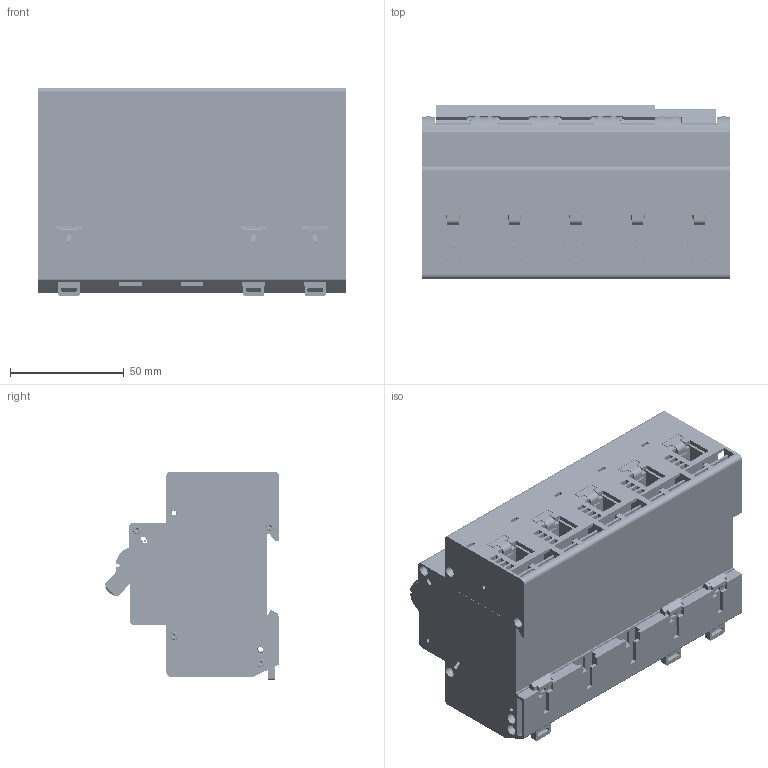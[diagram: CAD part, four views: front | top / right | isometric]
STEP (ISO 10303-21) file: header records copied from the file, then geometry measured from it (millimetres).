
FILE_DESCRIPTION (( 'STEP AP214' ), '1' );
FILE_NAME ('OptiDin BM125 4X-ÍÐ230.STEP', '2023-04-17T13:53:43', ( '' ), ( '' ), 'SwSTEP 2.0', 'SolidWorks 2018', '' );
FILE_SCHEMA (( 'AUTOMOTIVE_DESIGN' ));
Length unit declared in the file: millimetre
Products named in the file (28): OptiDin BM125 4X-迖230.STEP; _________ ____.000000.000.STEP; _______ ____.000000.000-0.STEP; ________ ____.754312.171.STEP; _________ ____.000000.002.STEP; _______ ____.000000.000.STEP; OptiDin BM125 4X-迖230; ___________ ______________ OptiDin BM125 1X ____.641463.001-2.STEP; _____ ____.715311.079.STEP; ________ ____.758331.008_5-_.STEP; _______ ____.000000.000-1.STEP; ___________ ______________ OptiDin BM125 __ ____.641463.000.STEP; _____ ______ ____.000000.000.STEP; ___________ ______________ OptiDin BM125 4N ____.641483.001.STEP; _____ ____.000000.000.STEP; ________ ______ ____.000000.000.STEP; ___________ ______________ OptiDin BM125 1X ____.641463.001.STEP; _____ ____.000000.002.STEP; ________ ____.000000.000____ ______.STEP; ___________ ______________ OptiDin BM125 1X ____.641463.001-1.STEP; _____ _______ ____.000000.000.STEP; _______ ____.000000.002.STEP; _____ ____.746442.007_4-_.STEP; ______ ___________ ____.711121.004.STEP; ________ _____ ____.000000.000.STEP; _________ ____.000000.001.STEP; Çàù¸ëêà ÃÆÈÊ.741358.040; ____ ____.000000.000.STEP
Assembly tree (108 placements, depth 6):
  OptiDin BM125 4X-迖230
    OptiDin BM125 4X-迖230.STEP
      ___________ ______________ OptiDin BM125 4N ____.641483.001.STEP
        _________ ____.000000.000.STEP
          _________ ____.000000.002.STEP
          _________ ____.000000.001.STEP
        ___________ ______________ OptiDin BM125 1X ____.641463.001.STEP
          _________ ____.000000.000.STEP
            _________ ____.000000.002.STEP
            _________ ____.000000.001.STEP
          ________ _____ ____.000000.000.STEP
          ________ ______ ____.000000.000.STEP
          _______ ____.000000.002.STEP
          _____ ______ ____.000000.000.STEP
          _____ _______ ____.000000.000.STEP
          ____ ____.000000.000.STEP  x2
          _______ ____.000000.000.STEP  x2
          _____ ____.000000.000.STEP
          _______ ____.000000.000-0.STEP
          _______ ____.000000.000-1.STEP
          ________ ____.000000.000____ ______.STEP  x4
          ________ ____.754312.171.STEP
        ___________ ______________ OptiDin BM125 1X ____.641463.001-1.STEP
          _________ ____.000000.000.STEP
            _________ ____.000000.002.STEP
            _________ ____.000000.001.STEP
          ________ _____ ____.000000.000.STEP
          ________ ______ ____.000000.000.STEP
          _______ ____.000000.002.STEP
          _____ ______ ____.000000.000.STEP
          _____ _______ ____.000000.000.STEP
          ____ ____.000000.000.STEP  x2
          _______ ____.000000.000.STEP  x2
          _____ ____.000000.000.STEP
          _______ ____.000000.000-0.STEP
          ________ ____.000000.000____ ______.STEP  x4
        ___________ ______________ OptiDin BM125 1X ____.641463.001-2.STEP
          _________ ____.000000.000.STEP
            _________ ____.000000.002.STEP
            _________ ____.000000.001.STEP
          ________ _____ ____.000000.000.STEP
          ________ ______ ____.000000.000.STEP
          _______ ____.000000.002.STEP
          _____ ______ ____.000000.000.STEP
          _____ _______ ____.000000.000.STEP
          ____ ____.000000.000.STEP  x2
          _______ ____.000000.000.STEP  x2
          _____ ____.000000.000.STEP
          _______ ____.000000.000-0.STEP
          _______ ____.000000.000-1.STEP
          ________ ____.000000.000____ ______.STEP  x4
        ________ _____ ____.000000.000.STEP
        ________ ______ ____.000000.000.STEP
        _______ ____.000000.002.STEP
        _____ ______ ____.000000.000.STEP
        _____ _______ ____.000000.000.STEP
        ____ ____.000000.000.STEP  x2
        _______ ____.000000.000.STEP  x2
        _____ ____.000000.000.STEP
        _______ ____.000000.000-0.STEP
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Bounding box: 135.1 x 76.52 x 91.6 mm (x, y, z)
Volume: 274824.5 mm3; surface area: 336322.9 mm2
Topology: 105 solids, 106 shells, 7373 faces, 19553 edges, 12557 vertices
Faces by surface type: plane 5071, cylinder 1931, torus 296, cone 75
Entity records: 53402 total; most frequent: CARTESIAN_POINT 9442, ORIENTED_EDGE 8724, DIRECTION 8698, EDGE_CURVE 4362, LINE 3218, VECTOR 3218, VERTEX_POINT 2836, AXIS2_PLACEMENT_3D 2740
